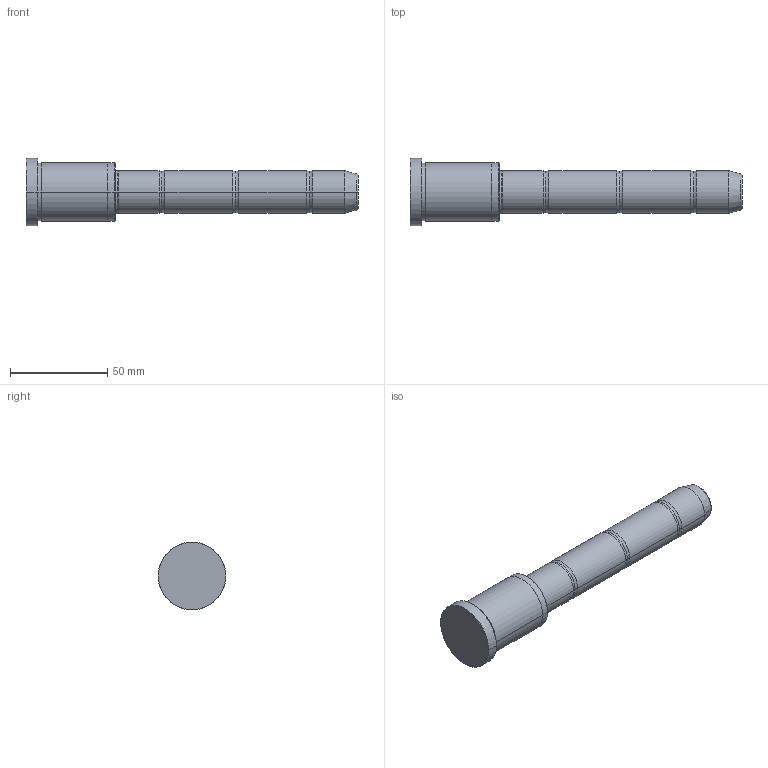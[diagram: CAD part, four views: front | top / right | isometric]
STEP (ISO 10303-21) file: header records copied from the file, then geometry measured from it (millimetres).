
FILE_DESCRIPTION (( 'STEP AP203' ), '1' );
FILE_NAME ('GDP-ES-22-046-125.step', '2015-11-25T17:00:42', ( '' ), ( '' ), 'SwSTEP 2.0', 'SolidWorks 2009', '' );
FILE_SCHEMA (( 'CONFIG_CONTROL_DESIGN' ));
Length unit declared in the file: millimetre
Products named in the file (1): GDP-ES-22-046-125
Bounding box: 171 x 35 x 35 mm (x, y, z)
Volume: 80892.9 mm3; surface area: 14837 mm2
Topology: 1 solids, 1 shells, 48 faces, 94 edges, 52 vertices
Faces by surface type: torus 18, cylinder 16, cone 8, plane 6
Entity records: 1309 total; most frequent: DIRECTION 262, CARTESIAN_POINT 195, ORIENTED_EDGE 188, AXIS2_PLACEMENT_3D 119, EDGE_CURVE 94, CIRCLE 70, VERTEX_POINT 52, EDGE_LOOP 52
